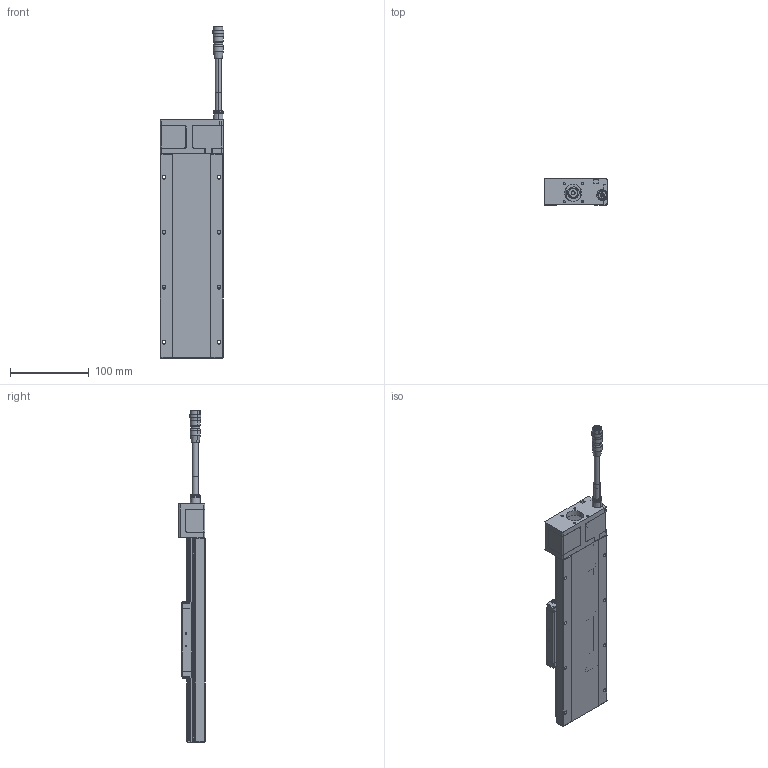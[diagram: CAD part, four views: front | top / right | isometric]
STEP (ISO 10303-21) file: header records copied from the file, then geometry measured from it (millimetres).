
FILE_DESCRIPTION (( 'STEP AP203' ), '1' );
FILE_NAME ('CXN80150-S2?N(µL°¨¹F).S', '2024-01-05T05:16:29', ( '' ), ( '' ), 'SwSTEP 2.0', 'SolidWorks 2019', '' );
FILE_SCHEMA (( 'CONFIG_CONTROL_DESIGN' ));
Length unit declared in the file: millimetre
Products named in the file (5): CXN80150-01-10-2^CXN80150-S2?N(28框無馬達)_defeature_GMT; Group2^CXN80150-S2?N(28框無馬達)_defeature_GMT; CXN80150-S2?N(無馬達); Group1^CXN80150-S2?N(28框無馬達)_defeature_GMT; HR10A-10J-12P_帶線示意
Assembly tree (4 placements, depth 2):
  CXN80150-S2?N(無馬達)
    Group1^CXN80150-S2?N(28框無馬達)_defeature_GMT
    Group2^CXN80150-S2?N(28框無馬達)_defeature_GMT
    CXN80150-01-10-2^CXN80150-S2?N(28框無馬達)_defeature_GMT
    HR10A-10J-12P_帶線示意
Bounding box: 80.99 x 33.5 x 422.5 mm (x, y, z)
Volume: 63740.6 mm3; surface area: 138650.3 mm2
Topology: 21 solids, 23 shells, 3041 faces, 7693 edges, 4635 vertices
Faces by surface type: cylinder 1040, plane 928, cone 466, torus 262, bspline 173, sphere 172
Entity records: 98112 total; most frequent: CARTESIAN_POINT 24504, DIRECTION 16246, ORIENTED_EDGE 15026, EDGE_CURVE 7513, AXIS2_PLACEMENT_3D 6375, VERTEX_POINT 4595, CIRCLE 3499, LINE 3496
